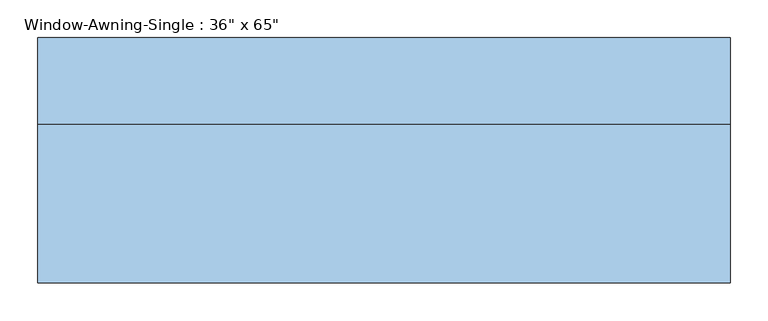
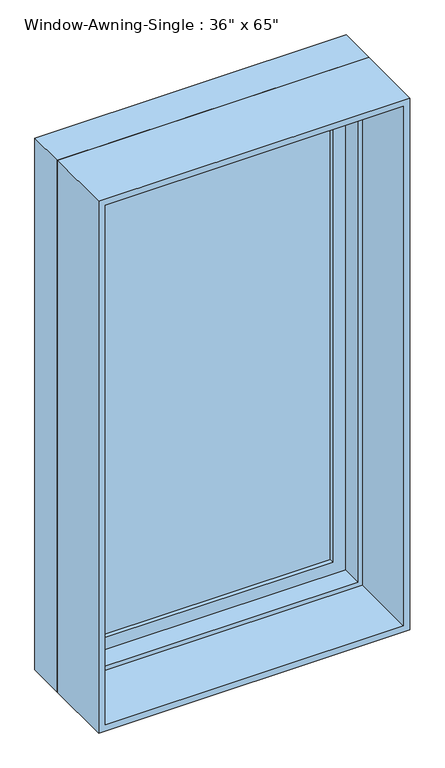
"""IFC4 building model written with IfcOpenShell, lengths in millimetres: window geometry."""

from ifc_helpers import new_model, si_unit, frame, origin, place, context, project, spatial, polyline, outline, extrude, faceted_brep, source, transform, mapped, element, save


def window_e5732006(model_context):
    return source(origin(), model_context, "Body", "SolidModel", [
        faceted_brep([(444.5, 120.65, 927.1), (444.5, 171.45, 927.1), (-444.5, 171.45, 927.1), (-444.5, 120.65, 927.1), (425.45, 57.15, 946.15), (425.45, 120.65, 946.15), (-425.45, 120.65, 946.15), (-425.45, 57.15, 946.15), (457.2, 171.45, 914.4), (457.2, 57.15, 914.4), (-457.2, 57.15, 914.4), (-457.2, 171.45, 914.4), (-444.5, 171.45, 2552.7), (-444.5, 120.65, 2552.7), (-425.45, 120.65, 2533.65), (-425.45, 57.15, 2533.65), (-457.2, 57.15, 2565.4), (-457.2, 171.45, 2565.4), (444.5, 171.45, 2552.7), (444.5, 120.65, 2552.7), (425.45, 120.65, 2533.65), (425.45, 57.15, 2533.65), (457.2, 57.15, 2565.4), (457.2, 171.45, 2565.4)], [[[0, 1, 2, 3]], [[4, 5, 6, 7]], [[8, 9, 10, 11]], [[3, 2, 12, 13]], [[7, 6, 14, 15]], [[11, 10, 16, 17]], [[13, 12, 18, 19]], [[15, 14, 20, 21]], [[17, 16, 22, 23]], [[11, 17, 23, 8], [1, 18, 12, 2]], [[19, 18, 1, 0]], [[3, 13, 19, 0], [5, 20, 14, 6]], [[21, 20, 5, 4]], [[9, 22, 16, 10], [7, 15, 21, 4]], [[23, 22, 9, 8]]]),
        extrude(outline(polyline([(387.35, 152.4), (387.35, 146.05), (-387.35, 146.05), (-387.35, 152.4), (387.35, 152.4)])), frame((0.0, 0.0, 984.25), z_axis=(0.0, 0.0, 1.0), x_axis=(1.0, 0.0, 0.0)), (0.0, 0.0, 1.0), 1511.3),
        extrude(outline(polyline([(387.35, 139.7), (387.35, 133.35), (-387.35, 133.35), (-387.35, 139.7), (387.35, 139.7)])), frame((0.0, 0.0, 984.25), z_axis=(0.0, 0.0, 1.0), x_axis=(1.0, 0.0, 0.0)), (0.0, 0.0, 1.0), 1511.3),
        extrude(outline(polyline([(927.1, -444.5), (927.1, 444.5), (2552.7, 444.5), (2552.7, -444.5), (927.1, -444.5)]), holes=[polyline([(2495.55, -387.35), (2495.55, 387.35), (984.25, 387.35), (984.25, -387.35), (2495.55, -387.35)])]), frame((0.0, 120.65, 0.0), z_axis=(0.0, 1.0, 0.0), x_axis=(0.0, 0.0, 1.0)), (0.0, 0.0, 1.0), 44.45),
        extrude(outline(polyline([(2565.4, -457.2), (914.4, -457.2), (914.4, 457.2), (2565.4, 457.2), (2565.4, -457.2)]), holes=[polyline([(2546.35, -438.15), (2546.35, 438.15), (933.45, 438.15), (933.45, -438.15), (2546.35, -438.15)])]), frame((0.0, -152.4, 0.0), z_axis=(0.0, 1.0, 0.0), x_axis=(0.0, 0.0, 1.0)), (0.0, 0.0, 1.0), 209.55),
    ])


if __name__ == "__main__":
    model = new_model("IFC4")
    model_context = context("Model", 3, world=origin())
    ifc_project = project(units=[si_unit("LENGTHUNIT", "METRE", prefix="MILLI")], contexts=[model_context])
    site = spatial("IfcSite", under=ifc_project)
    building = spatial("IfcBuilding", under=site)
    placement = place(None, origin())
    window_shape = window_e5732006(model_context)
    element("IfcWindow", 1, ObjectType="Window-Awning-Single : 36\" x 65\"", at=placement, inside=building, context=model_context, shape_type="MappedRepresentation", body=[
        mapped(window_shape, transform((0.0, 0.0, 0.0), x_axis=(1.0, 0.0, 0.0), y_axis=(0.0, 1.0, 0.0), z_axis=(0.0, 0.0, 1.0))),
    ])
    save(model, "model.ifc")
